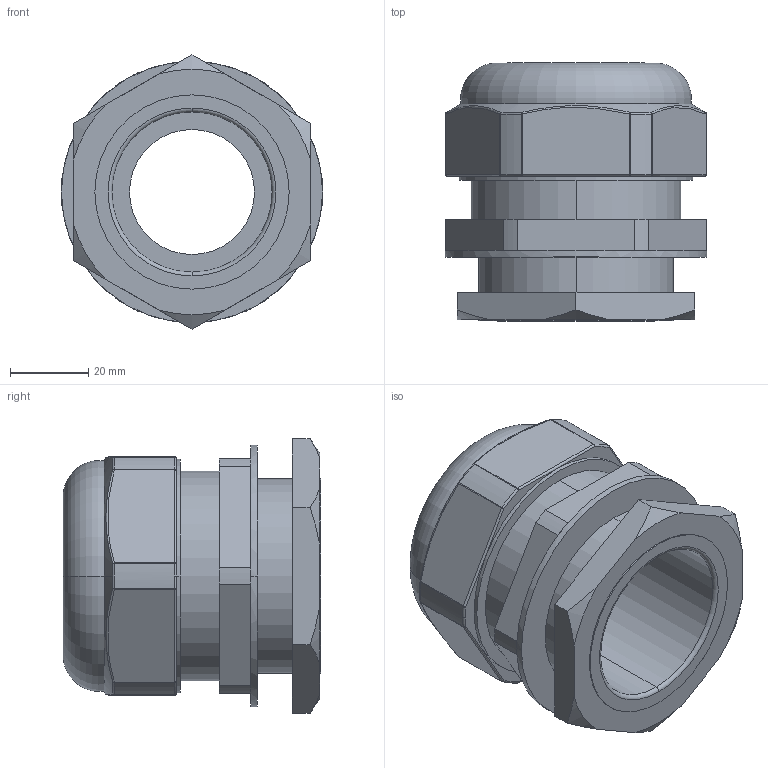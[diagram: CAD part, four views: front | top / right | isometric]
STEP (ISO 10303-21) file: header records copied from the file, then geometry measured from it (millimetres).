
FILE_DESCRIPTION (( 'STEP AP203' ), '1' );
FILE_NAME ('KPM_50-32.step', '2011-08-08T11:42:26', ( '' ), ( '' ), 'SwSTEP 2.0', 'SolidWorks 2011', '' );
FILE_SCHEMA (( 'CONFIG_CONTROL_DESIGN' ));
Length unit declared in the file: millimetre
Products named in the file (1): KPM_50-32
Bounding box: 67 x 66 x 70.21 mm (x, y, z)
Volume: 100398.5 mm3; surface area: 35515.6 mm2
Topology: 1 solids, 1 shells, 156 faces, 347 edges, 190 vertices
Faces by surface type: cylinder 53, plane 41, sphere 24, torus 22, cone 10, bspline 6
Entity records: 4568 total; most frequent: CARTESIAN_POINT 1048, DIRECTION 807, ORIENTED_EDGE 670, AXIS2_PLACEMENT_3D 345, EDGE_CURVE 335, CIRCLE 194, VERTEX_POINT 190, EDGE_LOOP 167
